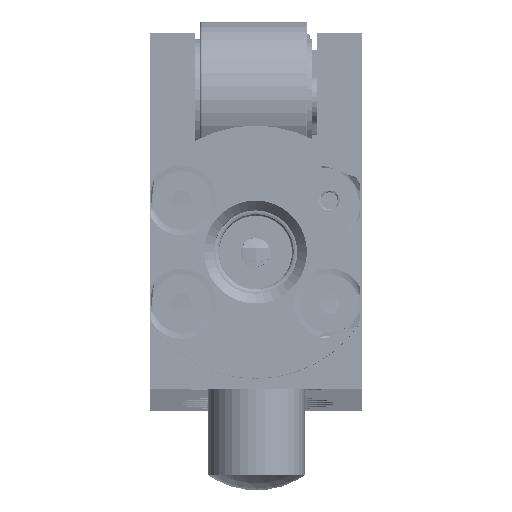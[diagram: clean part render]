
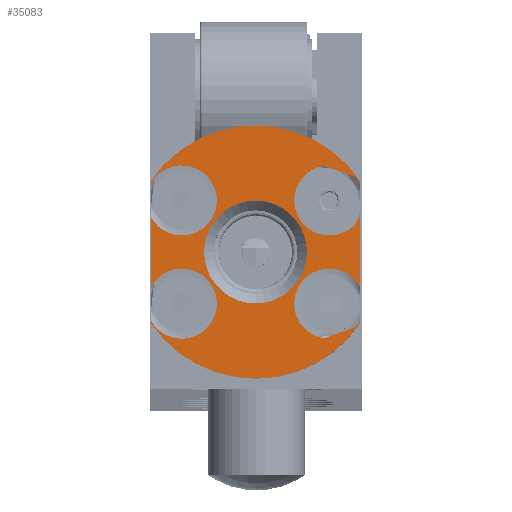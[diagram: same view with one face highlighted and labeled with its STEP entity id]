
A CAD part, top view. The second image highlights one B-rep face of the part: STEP entity #35083.
In plain terms, the highlighted planar face has unit normal (0, 0, 1).
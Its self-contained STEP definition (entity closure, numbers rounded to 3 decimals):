
#1274=FACE_BOUND('',#5534,.T.);
#1597=PLANE('',#38487);
#3394=FACE_OUTER_BOUND('',#5533,.T.);
#5533=EDGE_LOOP('',(#26773,#26774,#26775,#26776,#26777,#26778,#26779,#26780,
#26781,#26782,#26783,#26784,#26785,#26786,#26787,#26788));
#5534=EDGE_LOOP('',(#26789));
#7376=LINE('',#63058,#8704);
#7377=LINE('',#63061,#8705);
#7378=LINE('',#63065,#8706);
#7379=LINE('',#63069,#8707);
#7380=LINE('',#63073,#8708);
#7381=LINE('',#63077,#8709);
#7382=LINE('',#63081,#8710);
#7383=LINE('',#63084,#8711);
#8704=VECTOR('',#46856,10.);
#8705=VECTOR('',#46859,10.);
#8706=VECTOR('',#46862,10.);
#8707=VECTOR('',#46865,10.);
#8708=VECTOR('',#46868,10.);
#8709=VECTOR('',#46871,10.);
#8710=VECTOR('',#46874,10.);
#8711=VECTOR('',#46877,10.);
#10555=CIRCLE('',#38480,3.6);
#10558=CIRCLE('',#38483,3.6);
#10560=CIRCLE('',#38488,3.6);
#10561=CIRCLE('',#38489,3.6);
#10562=CIRCLE('',#38490,13.);
#10563=CIRCLE('',#38491,3.6);
#10564=CIRCLE('',#38492,3.6);
#10565=CIRCLE('',#38493,13.);
#10566=CIRCLE('',#38494,5.283);
#14392=VERTEX_POINT('',#63032);
#14393=VERTEX_POINT('',#63033);
#14394=VERTEX_POINT('',#63037);
#14398=VERTEX_POINT('',#63048);
#14400=VERTEX_POINT('',#63060);
#14401=VERTEX_POINT('',#63062);
#14402=VERTEX_POINT('',#63064);
#14403=VERTEX_POINT('',#63066);
#14404=VERTEX_POINT('',#63068);
#14405=VERTEX_POINT('',#63070);
#14406=VERTEX_POINT('',#63072);
#14407=VERTEX_POINT('',#63074);
#14408=VERTEX_POINT('',#63076);
#14409=VERTEX_POINT('',#63078);
#14410=VERTEX_POINT('',#63080);
#14411=VERTEX_POINT('',#63082);
#14412=VERTEX_POINT('',#63085);
#18909=EDGE_CURVE('',#14394,#14392,#10555,.T.);
#18915=EDGE_CURVE('',#14393,#14398,#10558,.T.);
#18918=EDGE_CURVE('',#14398,#14394,#7376,.T.);
#18919=EDGE_CURVE('',#14392,#14400,#7377,.T.);
#18920=EDGE_CURVE('',#14400,#14401,#10560,.T.);
#18921=EDGE_CURVE('',#14401,#14402,#7378,.T.);
#18922=EDGE_CURVE('',#14402,#14403,#10561,.T.);
#18923=EDGE_CURVE('',#14403,#14404,#7379,.T.);
#18924=EDGE_CURVE('',#14405,#14404,#10562,.T.);
#18925=EDGE_CURVE('',#14405,#14406,#7380,.T.);
#18926=EDGE_CURVE('',#14406,#14407,#10563,.T.);
#18927=EDGE_CURVE('',#14407,#14408,#7381,.T.);
#18928=EDGE_CURVE('',#14408,#14409,#10564,.T.);
#18929=EDGE_CURVE('',#14409,#14410,#7382,.T.);
#18930=EDGE_CURVE('',#14411,#14410,#10565,.T.);
#18931=EDGE_CURVE('',#14411,#14393,#7383,.T.);
#18932=EDGE_CURVE('',#14412,#14412,#10566,.T.);
#26773=ORIENTED_EDGE('',*,*,#18915,.T.);
#26774=ORIENTED_EDGE('',*,*,#18918,.T.);
#26775=ORIENTED_EDGE('',*,*,#18909,.T.);
#26776=ORIENTED_EDGE('',*,*,#18919,.T.);
#26777=ORIENTED_EDGE('',*,*,#18920,.T.);
#26778=ORIENTED_EDGE('',*,*,#18921,.T.);
#26779=ORIENTED_EDGE('',*,*,#18922,.T.);
#26780=ORIENTED_EDGE('',*,*,#18923,.T.);
#26781=ORIENTED_EDGE('',*,*,#18924,.F.);
#26782=ORIENTED_EDGE('',*,*,#18925,.T.);
#26783=ORIENTED_EDGE('',*,*,#18926,.T.);
#26784=ORIENTED_EDGE('',*,*,#18927,.T.);
#26785=ORIENTED_EDGE('',*,*,#18928,.T.);
#26786=ORIENTED_EDGE('',*,*,#18929,.T.);
#26787=ORIENTED_EDGE('',*,*,#18930,.F.);
#26788=ORIENTED_EDGE('',*,*,#18931,.T.);
#26789=ORIENTED_EDGE('',*,*,#18932,.F.);
#35083=ADVANCED_FACE('',(#3394,#1274),#1597,.T.);
#38480=AXIS2_PLACEMENT_3D('',#63038,#46840,#46841);
#38483=AXIS2_PLACEMENT_3D('',#63052,#46847,#46848);
#38487=AXIS2_PLACEMENT_3D('',#63059,#46857,#46858);
#38488=AXIS2_PLACEMENT_3D('',#63063,#46860,#46861);
#38489=AXIS2_PLACEMENT_3D('',#63067,#46863,#46864);
#38490=AXIS2_PLACEMENT_3D('',#63071,#46866,#46867);
#38491=AXIS2_PLACEMENT_3D('',#63075,#46869,#46870);
#38492=AXIS2_PLACEMENT_3D('',#63079,#46872,#46873);
#38493=AXIS2_PLACEMENT_3D('',#63083,#46875,#46876);
#38494=AXIS2_PLACEMENT_3D('',#63086,#46878,#46879);
#46840=DIRECTION('center_axis',(0.,0.,-1.));
#46841=DIRECTION('ref_axis',(-0.342,0.94,0.));
#46847=DIRECTION('center_axis',(0.,0.,-1.));
#46848=DIRECTION('ref_axis',(-0.342,0.94,0.));
#46856=DIRECTION('',(-0.94,-0.342,0.));
#46857=DIRECTION('center_axis',(0.,0.,1.));
#46858=DIRECTION('ref_axis',(1.,0.,0.));
#46859=DIRECTION('',(0.,1.,0.));
#46860=DIRECTION('center_axis',(0.,0.,-1.));
#46861=DIRECTION('ref_axis',(-0.342,-0.94,0.));
#46862=DIRECTION('',(0.94,-0.342,0.));
#46863=DIRECTION('center_axis',(0.,0.,-1.));
#46864=DIRECTION('ref_axis',(-0.342,-0.94,0.));
#46865=DIRECTION('',(0.,1.,0.));
#46866=DIRECTION('center_axis',(0.,0.,-1.));
#46867=DIRECTION('ref_axis',(0.,1.,0.));
#46868=DIRECTION('',(0.,-1.,0.));
#46869=DIRECTION('center_axis',(0.,0.,-1.));
#46870=DIRECTION('ref_axis',(1.,0.,0.));
#46871=DIRECTION('',(0.,-1.,0.));
#46872=DIRECTION('center_axis',(0.,0.,-1.));
#46873=DIRECTION('ref_axis',(1.,0.,0.));
#46874=DIRECTION('',(0.,-1.,0.));
#46875=DIRECTION('center_axis',(0.,0.,-1.));
#46876=DIRECTION('ref_axis',(0.,1.,0.));
#46877=DIRECTION('',(0.,1.,0.));
#46878=DIRECTION('center_axis',(0.,0.,1.));
#46879=DIRECTION('ref_axis',(-1.,0.,0.));
#63032=CARTESIAN_POINT('',(10.7,-7.855,1016.));
#63033=CARTESIAN_POINT('',(10.7,-11.256,1016.));
#63037=CARTESIAN_POINT('',(7.014,-13.119,1016.));
#63038=CARTESIAN_POINT('Origin',(7.527,-9.556,1016.));
#63048=CARTESIAN_POINT('',(10.211,-11.955,1016.));
#63052=CARTESIAN_POINT('Origin',(7.527,-9.556,1016.));
#63058=CARTESIAN_POINT('',(8.106,-12.721,1016.));
#63059=CARTESIAN_POINT('Origin',(-0.05,2.25,1016.));
#63060=CARTESIAN_POINT('',(10.7,-0.645,1016.));
#63061=CARTESIAN_POINT('',(10.7,-4.655,1016.));
#63062=CARTESIAN_POINT('',(7.014,4.619,1016.));
#63063=CARTESIAN_POINT('Origin',(7.527,1.056,1016.));
#63064=CARTESIAN_POINT('',(10.211,3.455,1016.));
#63065=CARTESIAN_POINT('',(6.017,4.982,1016.));
#63066=CARTESIAN_POINT('',(10.7,2.756,1016.));
#63067=CARTESIAN_POINT('Origin',(7.527,1.056,1016.));
#63068=CARTESIAN_POINT('',(10.7,3.06,1016.));
#63069=CARTESIAN_POINT('',(10.7,-4.655,1016.));
#63070=CARTESIAN_POINT('',(-10.8,3.06,1016.));
#63071=CARTESIAN_POINT('Origin',(-0.05,-4.25,1016.));
#63072=CARTESIAN_POINT('',(-10.8,2.756,1016.));
#63073=CARTESIAN_POINT('',(-10.8,2.655,1016.));
#63074=CARTESIAN_POINT('',(-10.8,-0.645,1016.));
#63075=CARTESIAN_POINT('Origin',(-7.627,1.056,1016.));
#63076=CARTESIAN_POINT('',(-10.8,-7.855,1016.));
#63077=CARTESIAN_POINT('',(-10.8,2.655,1016.));
#63078=CARTESIAN_POINT('',(-10.8,-11.256,1016.));
#63079=CARTESIAN_POINT('Origin',(-7.627,-9.556,1016.));
#63080=CARTESIAN_POINT('',(-10.8,-11.56,1016.));
#63081=CARTESIAN_POINT('',(-10.8,2.655,1016.));
#63082=CARTESIAN_POINT('',(10.7,-11.56,1016.));
#63083=CARTESIAN_POINT('Origin',(-0.05,-4.25,1016.));
#63084=CARTESIAN_POINT('',(10.7,-4.655,1016.));
#63085=CARTESIAN_POINT('',(5.233,-4.25,1016.));
#63086=CARTESIAN_POINT('Origin',(-0.05,-4.25,1016.));
